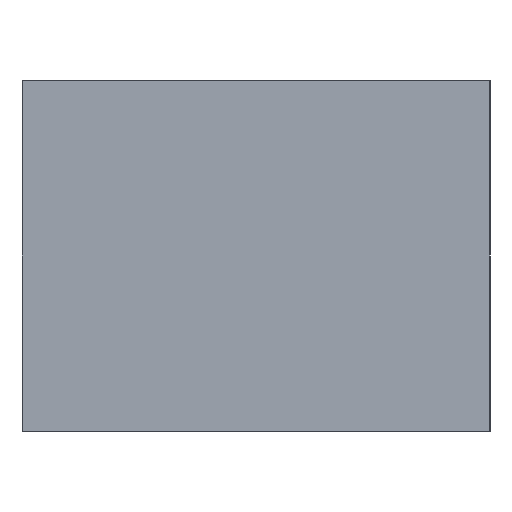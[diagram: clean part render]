
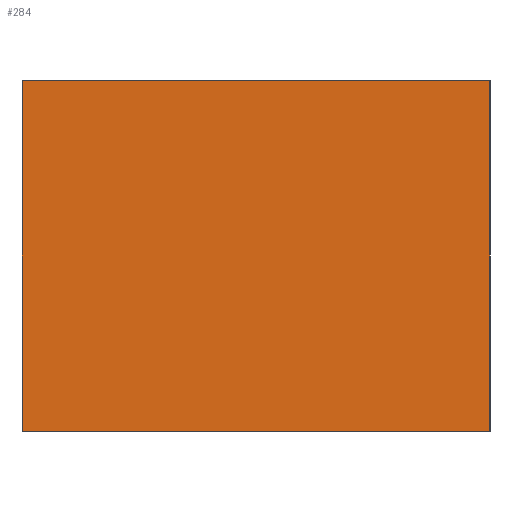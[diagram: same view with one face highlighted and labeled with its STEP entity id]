
A CAD part, left-side view. The second image highlights one B-rep face of the part: STEP entity #284.
In plain terms, the highlighted planar face has unit normal (-1, 0, 0).
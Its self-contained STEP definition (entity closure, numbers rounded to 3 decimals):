
#21 = EDGE_CURVE('',#22,#24,#26,.T.);
#22 = VERTEX_POINT('',#23);
#23 = CARTESIAN_POINT('',(25.,47.3,69.));
#24 = VERTEX_POINT('',#25);
#25 = CARTESIAN_POINT('',(25.,47.3,75.));
#26 = SURFACE_CURVE('',#27,(#31,#43),.PCURVE_S1.);
#27 = LINE('',#28,#29);
#28 = CARTESIAN_POINT('',(25.,47.3,69.));
#29 = VECTOR('',#30,1.);
#30 = DIRECTION('',(0.,0.,1.));
#31 = PCURVE('',#32,#37);
#32 = PLANE('',#33);
#33 = AXIS2_PLACEMENT_3D('',#34,#35,#36);
#34 = CARTESIAN_POINT('',(25.,47.3,69.));
#35 = DIRECTION('',(0.,1.,0.));
#36 = DIRECTION('',(1.,0.,0.));
#37 = DEFINITIONAL_REPRESENTATION('',(#38),#42);
#38 = LINE('',#39,#40);
#39 = CARTESIAN_POINT('',(0.,0.));
#40 = VECTOR('',#41,1.);
#41 = DIRECTION('',(0.,-1.));
#42 = ( GEOMETRIC_REPRESENTATION_CONTEXT(2) 
PARAMETRIC_REPRESENTATION_CONTEXT() REPRESENTATION_CONTEXT('2D SPACE',''
  ) );
#43 = PCURVE('',#44,#49);
#44 = PLANE('',#45);
#45 = AXIS2_PLACEMENT_3D('',#46,#47,#48);
#46 = CARTESIAN_POINT('',(25.,39.3,69.));
#47 = DIRECTION('',(-1.,0.,0.));
#48 = DIRECTION('',(0.,1.,0.));
#49 = DEFINITIONAL_REPRESENTATION('',(#50),#54);
#50 = LINE('',#51,#52);
#51 = CARTESIAN_POINT('',(8.,0.));
#52 = VECTOR('',#53,1.);
#53 = DIRECTION('',(0.,-1.));
#54 = ( GEOMETRIC_REPRESENTATION_CONTEXT(2) 
PARAMETRIC_REPRESENTATION_CONTEXT() REPRESENTATION_CONTEXT('2D SPACE',''
  ) );
#72 = PLANE('',#73);
#73 = AXIS2_PLACEMENT_3D('',#74,#75,#76);
#74 = CARTESIAN_POINT('',(77.5,43.3,75.));
#75 = DIRECTION('',(-0.,-0.,-1.));
#76 = DIRECTION('',(-1.,0.,0.));
#126 = PLANE('',#127);
#127 = AXIS2_PLACEMENT_3D('',#128,#129,#130);
#128 = CARTESIAN_POINT('',(77.5,43.3,69.));
#129 = DIRECTION('',(-0.,-0.,-1.));
#130 = DIRECTION('',(-1.,0.,0.));
#181 = PLANE('',#182);
#182 = AXIS2_PLACEMENT_3D('',#183,#184,#185);
#183 = CARTESIAN_POINT('',(130.,39.3,69.));
#184 = DIRECTION('',(0.,-1.,0.));
#185 = DIRECTION('',(-1.,0.,0.));
#219 = VERTEX_POINT('',#220);
#220 = CARTESIAN_POINT('',(25.,39.3,75.));
#241 = EDGE_CURVE('',#242,#219,#244,.T.);
#242 = VERTEX_POINT('',#243);
#243 = CARTESIAN_POINT('',(25.,39.3,69.));
#244 = SURFACE_CURVE('',#245,(#249,#256),.PCURVE_S1.);
#245 = LINE('',#246,#247);
#246 = CARTESIAN_POINT('',(25.,39.3,69.));
#247 = VECTOR('',#248,1.);
#248 = DIRECTION('',(0.,0.,1.));
#249 = PCURVE('',#181,#250);
#250 = DEFINITIONAL_REPRESENTATION('',(#251),#255);
#251 = LINE('',#252,#253);
#252 = CARTESIAN_POINT('',(105.,0.));
#253 = VECTOR('',#254,1.);
#254 = DIRECTION('',(0.,-1.));
#255 = ( GEOMETRIC_REPRESENTATION_CONTEXT(2) 
PARAMETRIC_REPRESENTATION_CONTEXT() REPRESENTATION_CONTEXT('2D SPACE',''
  ) );
#256 = PCURVE('',#44,#257);
#257 = DEFINITIONAL_REPRESENTATION('',(#258),#262);
#258 = LINE('',#259,#260);
#259 = CARTESIAN_POINT('',(0.,0.));
#260 = VECTOR('',#261,1.);
#261 = DIRECTION('',(0.,-1.));
#262 = ( GEOMETRIC_REPRESENTATION_CONTEXT(2) 
PARAMETRIC_REPRESENTATION_CONTEXT() REPRESENTATION_CONTEXT('2D SPACE',''
  ) );
#284 = ADVANCED_FACE('',(#285),#44,.T.);
#285 = FACE_BOUND('',#286,.T.);
#286 = EDGE_LOOP('',(#287,#288,#309,#310));
#287 = ORIENTED_EDGE('',*,*,#241,.T.);
#288 = ORIENTED_EDGE('',*,*,#289,.T.);
#289 = EDGE_CURVE('',#219,#24,#290,.T.);
#290 = SURFACE_CURVE('',#291,(#295,#302),.PCURVE_S1.);
#291 = LINE('',#292,#293);
#292 = CARTESIAN_POINT('',(25.,39.3,75.));
#293 = VECTOR('',#294,1.);
#294 = DIRECTION('',(0.,1.,0.));
#295 = PCURVE('',#44,#296);
#296 = DEFINITIONAL_REPRESENTATION('',(#297),#301);
#297 = LINE('',#298,#299);
#298 = CARTESIAN_POINT('',(0.,-6.));
#299 = VECTOR('',#300,1.);
#300 = DIRECTION('',(1.,0.));
#301 = ( GEOMETRIC_REPRESENTATION_CONTEXT(2) 
PARAMETRIC_REPRESENTATION_CONTEXT() REPRESENTATION_CONTEXT('2D SPACE',''
  ) );
#302 = PCURVE('',#72,#303);
#303 = DEFINITIONAL_REPRESENTATION('',(#304),#308);
#304 = LINE('',#305,#306);
#305 = CARTESIAN_POINT('',(52.5,-4.));
#306 = VECTOR('',#307,1.);
#307 = DIRECTION('',(0.,1.));
#308 = ( GEOMETRIC_REPRESENTATION_CONTEXT(2) 
PARAMETRIC_REPRESENTATION_CONTEXT() REPRESENTATION_CONTEXT('2D SPACE',''
  ) );
#309 = ORIENTED_EDGE('',*,*,#21,.F.);
#310 = ORIENTED_EDGE('',*,*,#311,.F.);
#311 = EDGE_CURVE('',#242,#22,#312,.T.);
#312 = SURFACE_CURVE('',#313,(#317,#324),.PCURVE_S1.);
#313 = LINE('',#314,#315);
#314 = CARTESIAN_POINT('',(25.,39.3,69.));
#315 = VECTOR('',#316,1.);
#316 = DIRECTION('',(0.,1.,0.));
#317 = PCURVE('',#44,#318);
#318 = DEFINITIONAL_REPRESENTATION('',(#319),#323);
#319 = LINE('',#320,#321);
#320 = CARTESIAN_POINT('',(0.,0.));
#321 = VECTOR('',#322,1.);
#322 = DIRECTION('',(1.,0.));
#323 = ( GEOMETRIC_REPRESENTATION_CONTEXT(2) 
PARAMETRIC_REPRESENTATION_CONTEXT() REPRESENTATION_CONTEXT('2D SPACE',''
  ) );
#324 = PCURVE('',#126,#325);
#325 = DEFINITIONAL_REPRESENTATION('',(#326),#330);
#326 = LINE('',#327,#328);
#327 = CARTESIAN_POINT('',(52.5,-4.));
#328 = VECTOR('',#329,1.);
#329 = DIRECTION('',(0.,1.));
#330 = ( GEOMETRIC_REPRESENTATION_CONTEXT(2) 
PARAMETRIC_REPRESENTATION_CONTEXT() REPRESENTATION_CONTEXT('2D SPACE',''
  ) );
